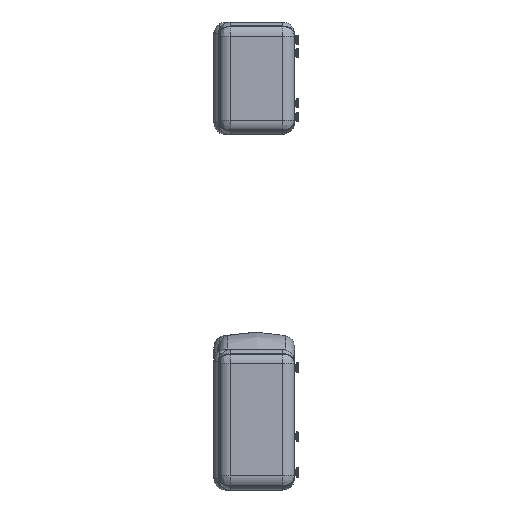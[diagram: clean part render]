
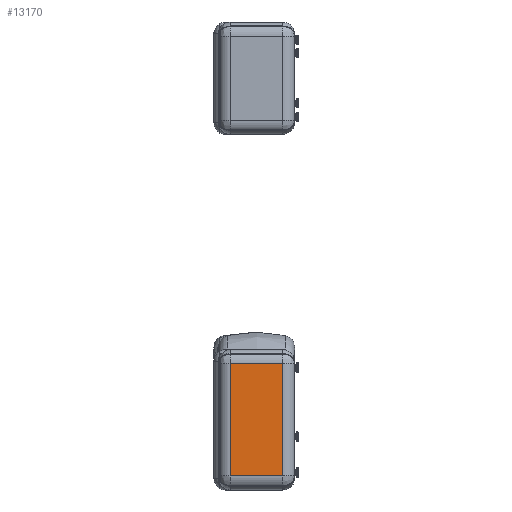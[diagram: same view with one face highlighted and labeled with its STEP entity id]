
A CAD part, left-side view. The second image highlights one B-rep face of the part: STEP entity #13170.
In plain terms, the highlighted planar face has unit normal (-1, 0, 0).
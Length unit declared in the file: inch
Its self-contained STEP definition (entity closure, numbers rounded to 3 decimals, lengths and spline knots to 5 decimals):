
#988=LINE('',#26792,#1625);
#996=LINE('',#26868,#1633);
#1005=LINE('',#27053,#1642);
#1006=LINE('',#27055,#1643);
#1625=VECTOR('',#18448,0.3937);
#1633=VECTOR('',#18498,0.3937);
#1642=VECTOR('',#18545,0.3937);
#1643=VECTOR('',#18548,0.3937);
#2238=PLANE('',#14860);
#2933=FACE_OUTER_BOUND('',#3875,.T.);
#3875=EDGE_LOOP('',(#10991,#10992,#10993,#10994));
#6085=VERTEX_POINT('',#26784);
#6087=VERTEX_POINT('',#26790);
#6100=VERTEX_POINT('',#26860);
#6102=VERTEX_POINT('',#26866);
#7735=EDGE_CURVE('',#6087,#6085,#988,.T.);
#7759=EDGE_CURVE('',#6102,#6100,#996,.T.);
#7781=EDGE_CURVE('',#6100,#6087,#1005,.T.);
#7782=EDGE_CURVE('',#6085,#6102,#1006,.T.);
#10991=ORIENTED_EDGE('',*,*,#7781,.F.);
#10992=ORIENTED_EDGE('',*,*,#7759,.F.);
#10993=ORIENTED_EDGE('',*,*,#7782,.F.);
#10994=ORIENTED_EDGE('',*,*,#7735,.F.);
#13170=ADVANCED_FACE('',(#2933),#2238,.T.);
#14860=AXIS2_PLACEMENT_3D('',#27054,#18546,#18547);
#18448=DIRECTION('',(0.,-1.,0.));
#18498=DIRECTION('',(0.,1.,0.));
#18545=DIRECTION('',(0.,0.,1.));
#18546=DIRECTION('center_axis',(-1.,0.,0.));
#18547=DIRECTION('ref_axis',(0.,-1.,0.));
#18548=DIRECTION('',(0.,0.,-1.));
#26784=CARTESIAN_POINT('',(117.33608,2.5,-61.05245));
#26790=CARTESIAN_POINT('',(117.33608,13.75,-61.05245));
#26792=CARTESIAN_POINT('',(117.33608,12.1875,-61.05245));
#26860=CARTESIAN_POINT('',(117.33608,13.75,-85.05245));
#26866=CARTESIAN_POINT('',(117.33608,2.5,-85.05245));
#26868=CARTESIAN_POINT('',(117.33608,12.1875,-85.05245));
#27053=CARTESIAN_POINT('',(117.33608,13.75,-76.05245));
#27054=CARTESIAN_POINT('Origin',(117.33608,16.25,-76.05245));
#27055=CARTESIAN_POINT('',(117.33608,2.5,-70.05245));
